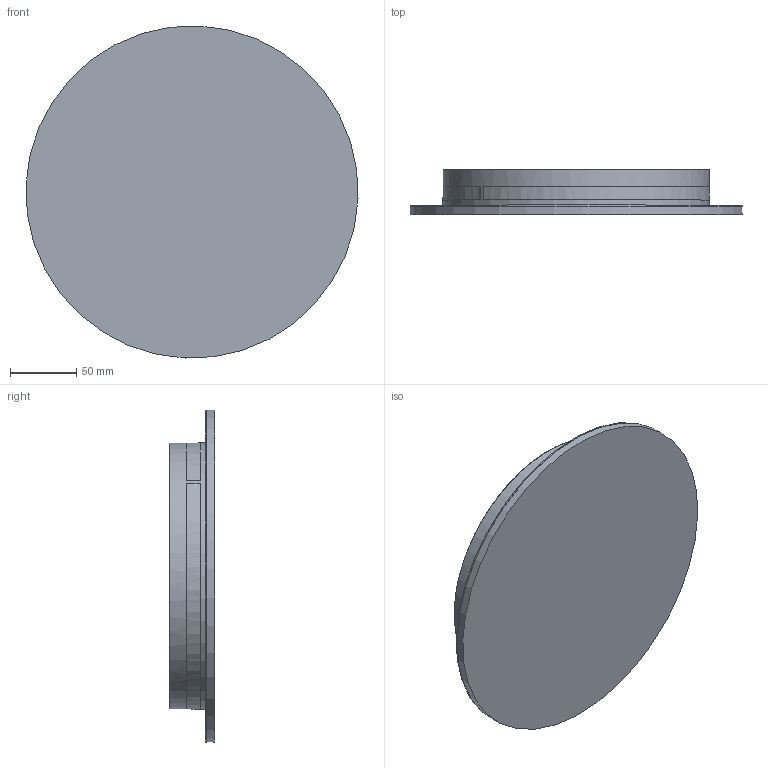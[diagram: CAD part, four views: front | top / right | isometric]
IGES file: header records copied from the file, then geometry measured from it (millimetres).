
Start section: SolidWorks IGES file using analytic representation for surfaces
Global section: file name: X:\PRODUKT\Modele 3D_WWW\_KOLEKCJE WWW\RING-LED\RING-LED-M-WOOD-10281\RING-LED-M-WOOD-10281.IGS; native system: SolidWorks 2021; preprocessor: SolidWorks 2021; author: gabriela.tworek; date: 221026.084934; units: millimetre
Bounding box: 249.79 x 34 x 249.79 mm (x, y, z)
Surface area: 294536.1 mm2 (no closed solid volume)
Topology: 0 solids, 0 shells, 15 faces, 39 edges, 36 vertices
Faces by surface type: bspline 10, revolution 5
